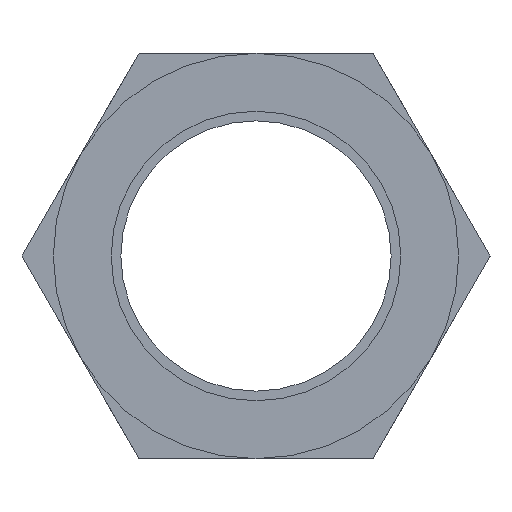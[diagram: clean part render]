
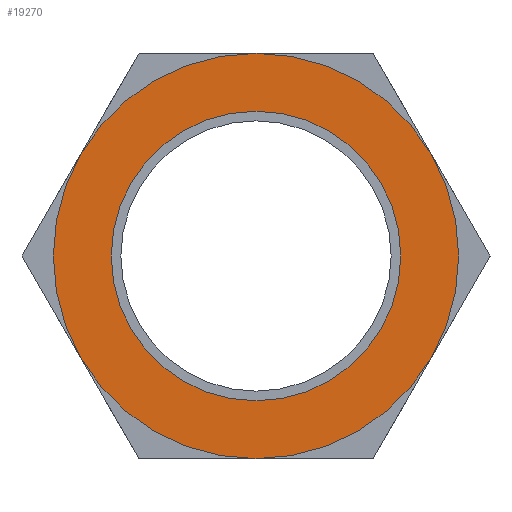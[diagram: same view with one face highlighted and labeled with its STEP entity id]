
A CAD part, left-side view. The second image highlights one B-rep face of the part: STEP entity #19270.
In plain terms, the highlighted planar face has unit normal (-1, 0, 0).
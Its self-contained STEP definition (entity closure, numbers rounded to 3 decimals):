
#14360=CARTESIAN_POINT('',(748.514,-316.425,
0.));
#14370=VERTEX_POINT('',#14360);
#14400=CARTESIAN_POINT('',(748.514,-308.925,0.));
#14410=DIRECTION('',(1.,0.,0.));
#14420=DIRECTION('',(0.,1.,0.));
#14430=AXIS2_PLACEMENT_3D('',#14400,#14410,#14420);
#14440=CIRCLE('',#14430,7.5);
#14450=CARTESIAN_POINT('',(748.514,-301.425,0.));
#14460=VERTEX_POINT('',#14450);
#14470=EDGE_CURVE('',#14370,#14460,#14440,.T.);
#18740=CARTESIAN_POINT('',(748.514,-298.425,
0.));
#18750=VERTEX_POINT('',#18740);
#18780=CARTESIAN_POINT('',(748.514,-308.925,0.));
#18790=DIRECTION('',(1.,0.,0.));
#18800=DIRECTION('',(0.,1.,0.));
#18810=AXIS2_PLACEMENT_3D('',#18780,#18790,#18800);
#18820=CIRCLE('',#18810,10.5);
#18830=CARTESIAN_POINT('',(748.514,-318.018,
-5.25));
#18840=VERTEX_POINT('',#18830);
#18850=EDGE_CURVE('',#18840,#18750,#18820,.T.);
#18870=CARTESIAN_POINT('',(748.514,-319.425,0.));
#18880=VERTEX_POINT('',#18870);
#18890=EDGE_CURVE('',#18880,#18840,#18820,.T.);
#19110=CARTESIAN_POINT('',(748.514,-299.925,0.));
#19120=DIRECTION('',(1.,0.,0.));
#19130=DIRECTION('',(0.,-1.,0.));
#19140=AXIS2_PLACEMENT_3D('',#19110,#19120,#19130);
#19150=PLANE('',#19140);
#19160=EDGE_CURVE('',#14460,#14370,#14440,.T.);
#19170=ORIENTED_EDGE('',*,*,#19160,.T.);
#19180=ORIENTED_EDGE('',*,*,#14470,.T.);
#19190=EDGE_LOOP('',(#19180,#19170));
#19200=FACE_BOUND('',#19190,.T.);
#19210=ORIENTED_EDGE('',*,*,#18850,.F.);
#19220=EDGE_CURVE('',#18750,#18880,#18820,.T.);
#19230=ORIENTED_EDGE('',*,*,#19220,.F.);
#19240=ORIENTED_EDGE('',*,*,#18890,.F.);
#19250=EDGE_LOOP('',(#19240,#19230,#19210));
#19260=FACE_OUTER_BOUND('',#19250,.T.);
#19270=ADVANCED_FACE('',(#19200,#19260),#19150,.F.);
